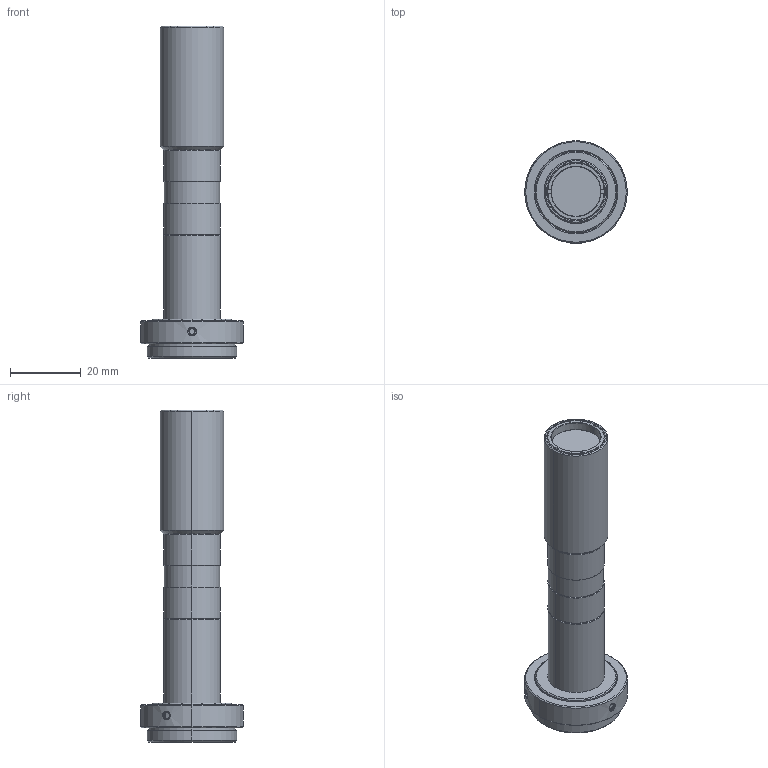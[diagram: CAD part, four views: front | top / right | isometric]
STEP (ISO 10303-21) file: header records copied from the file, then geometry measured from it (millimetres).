
FILE_DESCRIPTION (( 'STEP AP203' ), '1' );
FILE_NAME ('MML08-ST65_A03875A0100101A-001.STEP', '2013-11-26T05:00:12', ( 'SCHOTT' ), ( 'SCHOTT' ), 'SwSTEP 2.0', 'SolidWorks 2011', '' );
FILE_SCHEMA (( 'CONFIG_CONTROL_DESIGN' ));
Length unit declared in the file: millimetre
Products named in the file (1): MML08-ST65_A03875A0100101A-001
Bounding box: 29 x 29 x 93.78 mm (x, y, z)
Volume: 18940.9 mm3; surface area: 8502.3 mm2
Topology: 1 solids, 2 shells, 174 faces, 413 edges, 261 vertices
Faces by surface type: cone 77, plane 53, cylinder 44
Entity records: 5307 total; most frequent: CARTESIAN_POINT 1176, DIRECTION 882, ORIENTED_EDGE 826, EDGE_CURVE 413, AXIS2_PLACEMENT_3D 353, VERTEX_POINT 261, EDGE_LOOP 194, CIRCLE 178
